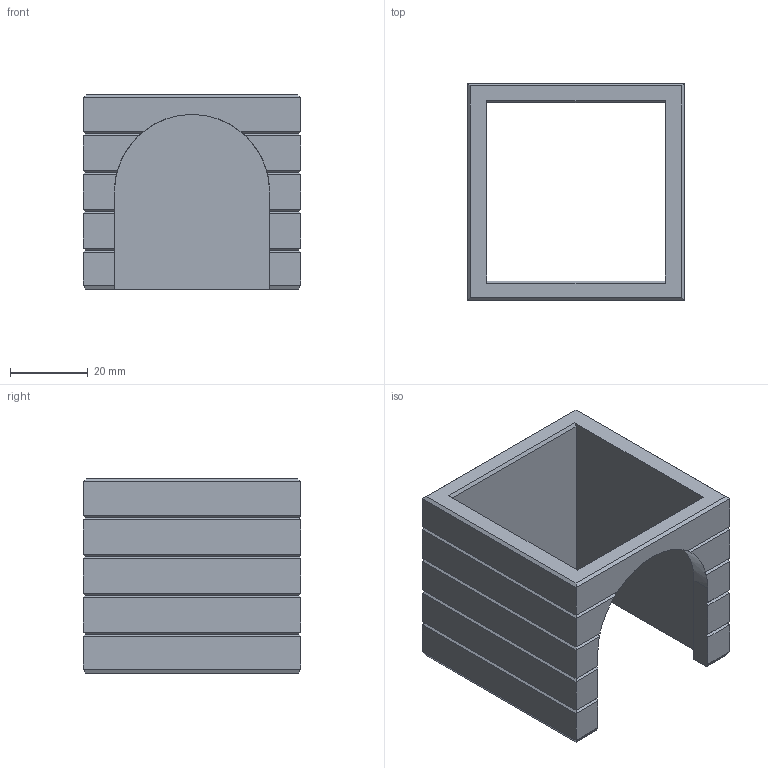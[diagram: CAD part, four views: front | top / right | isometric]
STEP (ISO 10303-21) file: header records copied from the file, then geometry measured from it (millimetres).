
FILE_DESCRIPTION(/* description */ ('','CAx-IF Rec.Pracs.---Representation and Presentation of Product Manufacturing Information (PMI)---4.0---2014-10-13'),/* implementation_level */ '2;1');
FILE_NAME(/* name */ 'Huette-Wand.step',/* time_stamp */ '2024-12-13T22:23:12+01:00',/* author */ (''),/* organization */ (''),/* preprocessor_version */ 'ST-DEVELOPER v20',/* originating_system */ 'Autodesk Translation Framework v13.20.0.188',/* authorisation */ '');
FILE_SCHEMA (('AP242_MANAGED_MODEL_BASED_3D_ENGINEERING_MIM_LF { 1 0 10303 442 1 1 4 }'));
Length unit declared in the file: millimetre
Products named in the file (1): 01_Huette-Wand
Bounding box: 56 x 56 x 50 mm (x, y, z)
Volume: 42547.9 mm3; surface area: 19645.2 mm2
Topology: 1 solids, 1 shells, 84 faces, 193 edges, 110 vertices
Faces by surface type: plane 83, cylinder 1
Entity records: 2307 total; most frequent: CARTESIAN_POINT 388, ORIENTED_EDGE 386, DIRECTION 377, EDGE_CURVE 193, LINE 179, VECTOR 179, VERTEX_POINT 110, AXIS2_PLACEMENT_3D 99
